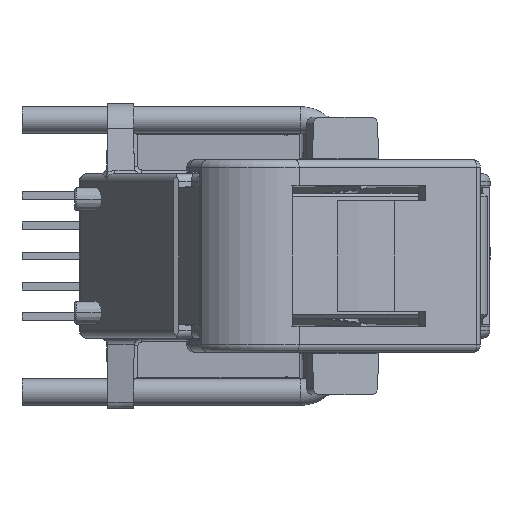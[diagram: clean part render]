
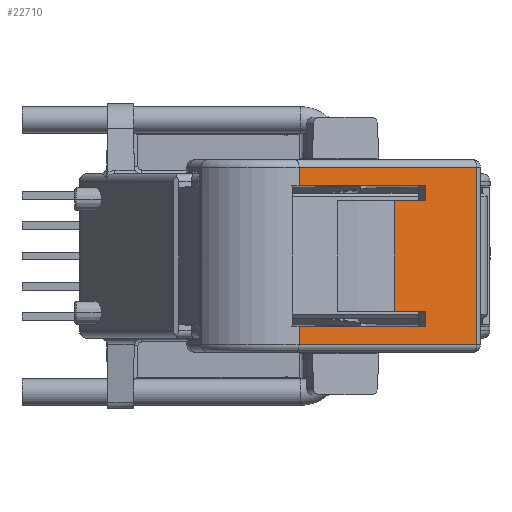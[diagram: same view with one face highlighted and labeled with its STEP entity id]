
A CAD part, left-side view. The second image highlights one B-rep face of the part: STEP entity #22710.
In plain terms, the highlighted planar face has unit normal (-0.866, -0.5, 0) as drawn and (0, -1, 0) by its records, which use the part's own axes.
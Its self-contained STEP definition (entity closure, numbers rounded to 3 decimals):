
#210=CARTESIAN_POINT('',(-25.329,-15.738,
-4.721));
#220=VERTEX_POINT('',#210);
#250=CARTESIAN_POINT('',(-14.268,-15.738,
-4.721));
#260=DIRECTION('',(-1.,0.,0.));
#270=VECTOR('',#260,1.);
#280=LINE('',#250,#270);
#290=CARTESIAN_POINT('',(-34.978,-15.738,
-4.721));
#300=VERTEX_POINT('',#290);
#310=EDGE_CURVE('',#220,#300,#280,.T.);
#1750=CARTESIAN_POINT('',(-34.977,-15.738,0.));
#1760=DIRECTION('',(0.,0.,-1.));
#1770=VECTOR('',#1760,1.);
#1780=LINE('',#1750,#1770);
#1790=CARTESIAN_POINT('',(-34.977,-15.738,
-3.72));
#1800=VERTEX_POINT('',#1790);
#1810=EDGE_CURVE('',#1800,#300,#1780,.T.);
#3010=CARTESIAN_POINT('',(-38.882,-15.738,
-5.925));
#3020=VERTEX_POINT('',#3010);
#3180=CARTESIAN_POINT('',(-38.882,-15.738,
5.794));
#3190=VERTEX_POINT('',#3180);
#3220=CARTESIAN_POINT('',(-38.882,-15.738,
-4.212));
#3230=DIRECTION('',(0.,0.,-1.));
#3240=VECTOR('',#3230,1.);
#3250=LINE('',#3220,#3240);
#3260=EDGE_CURVE('',#3190,#3020,#3250,.T.);
#14430=CARTESIAN_POINT('',(-25.329,-15.738,
-5.925));
#14440=VERTEX_POINT('',#14430);
#14470=CARTESIAN_POINT('',(-25.329,-15.738,
-0.065));
#14480=DIRECTION('',(0.,0.,1.));
#14490=VECTOR('',#14480,1.);
#14500=LINE('',#14470,#14490);
#14510=EDGE_CURVE('',#14440,#220,#14500,.T.);
#14670=CARTESIAN_POINT('',(-25.329,-15.738,
4.59));
#14680=VERTEX_POINT('',#14670);
#14710=CARTESIAN_POINT('',(-25.329,-15.738,
-0.065));
#14720=DIRECTION('',(0.,0.,-1.));
#14730=VECTOR('',#14720,1.);
#14740=LINE('',#14710,#14730);
#14750=CARTESIAN_POINT('',(-25.329,-15.738,
5.794));
#14760=VERTEX_POINT('',#14750);
#14770=EDGE_CURVE('',#14760,#14680,#14740,.T.);
#15090=CARTESIAN_POINT('',(-14.26,-15.738,
5.794));
#15100=DIRECTION('',(-1.,0.,0.));
#15110=VECTOR('',#15100,1.);
#15120=LINE('',#15090,#15110);
#15130=EDGE_CURVE('',#14760,#3190,#15120,.T.);
#21090=CARTESIAN_POINT('',(-34.978,-15.738,
4.59));
#21100=VERTEX_POINT('',#21090);
#21130=CARTESIAN_POINT('',(-14.268,-15.738,
4.59));
#21140=DIRECTION('',(-1.,0.,0.));
#21150=VECTOR('',#21140,1.);
#21160=LINE('',#21130,#21150);
#21170=EDGE_CURVE('',#14680,#21100,#21160,.T.);
#22030=CARTESIAN_POINT('',(-34.977,-15.738,
3.59));
#22040=VERTEX_POINT('',#22030);
#22070=CARTESIAN_POINT('',(-34.971,-15.738,
-4.212));
#22080=DIRECTION('',(-0.001,0.,
1.));
#22090=VECTOR('',#22080,1.);
#22100=LINE('',#22070,#22090);
#22110=EDGE_CURVE('',#22040,#21100,#22100,.T.);
#22280=CARTESIAN_POINT('',(-33.131,-15.738,
3.59));
#22290=DIRECTION('',(0.,1.,0.));
#22300=DIRECTION('',(1.,0.,0.));
#22310=AXIS2_PLACEMENT_3D('',#22280,#22290,#22300);
#22320=PLANE('',#22310);
#22330=ORIENTED_EDGE('',*,*,#1810,.F.);
#22340=ORIENTED_EDGE('',*,*,#310,.T.);
#22350=ORIENTED_EDGE('',*,*,#14510,.T.);
#22360=CARTESIAN_POINT('',(-14.26,-15.738,
-5.925));
#22370=DIRECTION('',(-1.,0.,0.));
#22380=VECTOR('',#22370,1.);
#22390=LINE('',#22360,#22380);
#22400=EDGE_CURVE('',#14440,#3020,#22390,.T.);
#22410=ORIENTED_EDGE('',*,*,#22400,.F.);
#22420=ORIENTED_EDGE('',*,*,#3260,.T.);
#22430=ORIENTED_EDGE('',*,*,#15130,.T.);
#22440=ORIENTED_EDGE('',*,*,#14770,.F.);
#22450=ORIENTED_EDGE('',*,*,#21170,.F.);
#22460=ORIENTED_EDGE('',*,*,#22110,.T.);
#22470=CARTESIAN_POINT('',(-33.131,-15.738,
3.59));
#22480=DIRECTION('',(1.,0.,0.));
#22490=VECTOR('',#22480,1.);
#22500=LINE('',#22470,#22490);
#22510=CARTESIAN_POINT('',(-32.563,-15.738,
3.59));
#22520=VERTEX_POINT('',#22510);
#22530=EDGE_CURVE('',#22040,#22520,#22500,.T.);
#22540=ORIENTED_EDGE('',*,*,#22530,.F.);
#22550=CARTESIAN_POINT('',(-32.563,-15.738,
3.59));
#22560=DIRECTION('',(0.,0.,-1.));
#22570=VECTOR('',#22560,1.);
#22580=LINE('',#22550,#22570);
#22590=CARTESIAN_POINT('',(-32.563,-15.738,
-3.72));
#22600=VERTEX_POINT('',#22590);
#22610=EDGE_CURVE('',#22520,#22600,#22580,.T.);
#22620=ORIENTED_EDGE('',*,*,#22610,.F.);
#22630=CARTESIAN_POINT('',(-33.131,-15.738,
-3.72));
#22640=DIRECTION('',(1.,0.,0.));
#22650=VECTOR('',#22640,1.);
#22660=LINE('',#22630,#22650);
#22670=EDGE_CURVE('',#1800,#22600,#22660,.T.);
#22680=ORIENTED_EDGE('',*,*,#22670,.T.);
#22690=EDGE_LOOP('',(#22680,#22620,#22540,#22460,#22450,#22440,#22430,
#22420,#22410,#22350,#22340,#22330));
#22700=FACE_OUTER_BOUND('',#22690,.T.);
#22710=ADVANCED_FACE('',(#22700),#22320,.F.);
